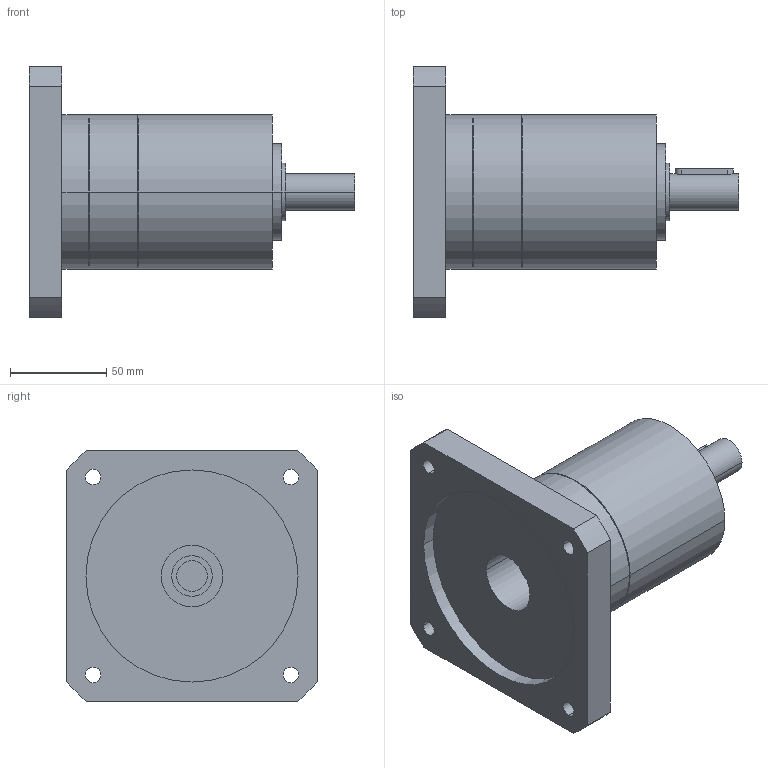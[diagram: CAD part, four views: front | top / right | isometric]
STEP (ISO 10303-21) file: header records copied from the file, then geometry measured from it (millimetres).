
FILE_DESCRIPTION(('CoCreate Modeling STEP Export'),'2;1');
FILE_NAME('GPR100_ig-3-4-5-6_19_B14_16_P18.stp','2014-08-26T10:08:14',(''),(''),'CoCreate Modeling STEP processor for AP214 (Solid Model)','CoCreate Modeling 16.00C 25-Feb-2009 (C) Parametric Technology GmbH','');
FILE_SCHEMA(('AUTOMOTIVE_DESIGN { 1 0 10303 214 1 1 1 1 }'));
Length unit declared in the file: millimetre
Products named in the file (2): GPR100_ig-3-4-5-6_19_B14_16_P18
Assembly tree (1 placements, depth 2):
  GPR100_ig-3-4-5-6_19_B14_16_P18
    GPR100_ig-3-4-5-6_19_B14_16_P18
Bounding box: 169 x 130 x 130 mm (x, y, z)
Volume: 757150.2 mm3; surface area: 82666.2 mm2
Topology: 1 solids, 1 shells, 73 faces, 196 edges, 138 vertices
Faces by surface type: cylinder 44, plane 23, cone 6
Entity records: 2014 total; most frequent: ORIENTED_EDGE 388, CARTESIAN_POINT 372, DIRECTION 272, EDGE_CURVE 194, VERTEX_POINT 138, AXIS2_PLACEMENT_3D 102, EDGE_LOOP 96, FACE_OUTER_BOUND 73
